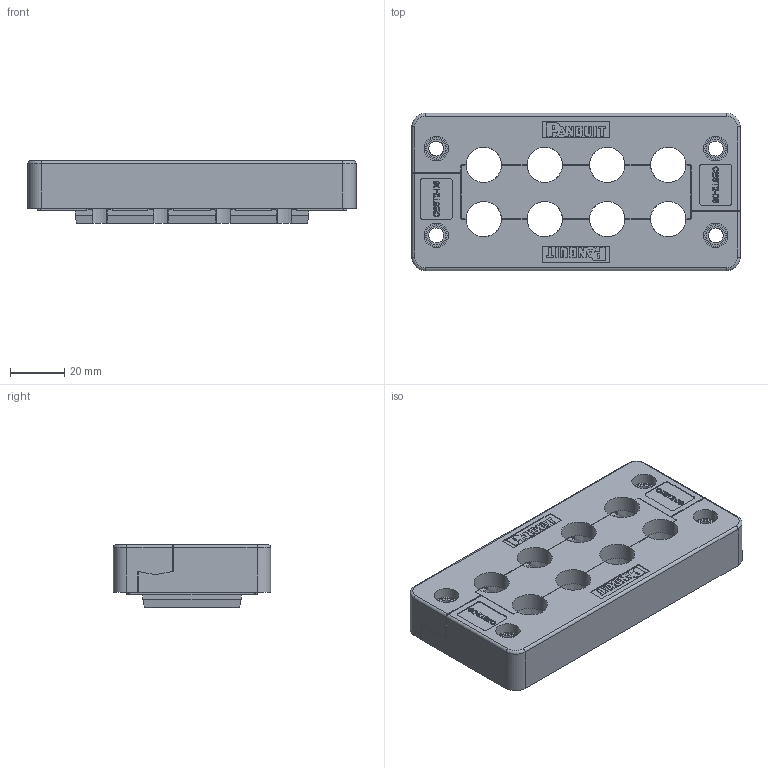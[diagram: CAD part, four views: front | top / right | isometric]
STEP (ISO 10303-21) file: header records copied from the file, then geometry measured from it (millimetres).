
FILE_DESCRIPTION(/* description */ (''),/* implementation_level */ '2;1');
FILE_NAME(/* name */ 'H:\SapWorkDir\Inventor\MP1\ConvertTempPath\87_11_121456_00_A_220620_KDL-D 16-8 ZSB.stp',/* time_stamp */ '2022-06-20T09:15:03+02:00',/* author */ ('BAUER'),/* organization */ (''),/* preprocessor_version */ 'ST-DEVELOPER v16.13',/* originating_system */ 'Autodesk Inventor 2018',/* authorisation */ '');
FILE_SCHEMA (('AUTOMOTIVE_DESIGN { 1 0 10303 214 3 1 1 }'));
Length unit declared in the file: millimetre
Products named in the file (4): 121456; 16-polig_Tüllenblock; KDL-D 16_Mittelteil; 121403
Assembly tree (4 placements, depth 2):
  121456
    16-polig_Tüllenblock
    KDL-D 16_Mittelteil
    121403  x2
Bounding box: 121 x 58 x 23 mm (x, y, z)
Volume: 93826.6 mm3; surface area: 53354.4 mm2
Topology: 4 solids, 6 shells, 1309 faces, 3563 edges, 2368 vertices
Faces by surface type: plane 833, cylinder 263, bspline 191, torus 12, cone 10
Full cylindrical faces by diameter (mm): 4.061 x2, 5 x6, 5.5 x10, 6 x2, 7 x4, 8 x4, 9 x4
Entity records: 31329 total; most frequent: CARTESIAN_POINT 7434, ORIENTED_EDGE 5186, DIRECTION 4485, EDGE_CURVE 2593, LINE 1793, VECTOR 1793, VERTEX_POINT 1733, AXIS2_PLACEMENT_3D 1346
